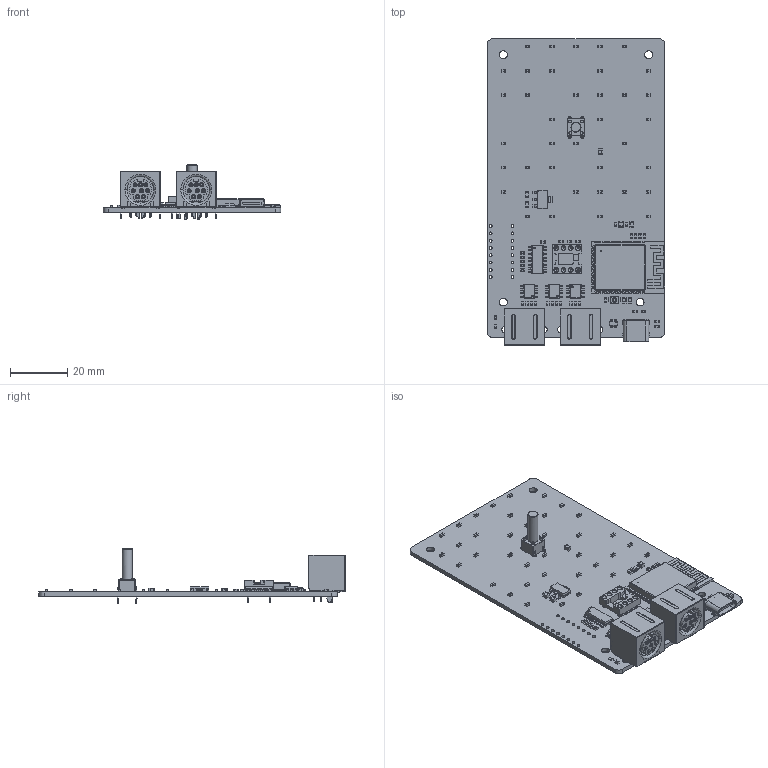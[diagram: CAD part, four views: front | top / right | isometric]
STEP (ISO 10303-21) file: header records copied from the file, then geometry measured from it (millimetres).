
FILE_DESCRIPTION(('KiCad electronic assembly'),'2;1');
FILE_NAME('airwriter-3d.step','2026-10-15T21:17:50',('Pcbnew'),('Kicad') ,'Open CASCADE STEP processor 7.9','KiCad to STEP converter','Unknown' );
FILE_SCHEMA(('AUTOMOTIVE_DESIGN { 1 0 10303 214 1 1 1 1 }'));
Length unit declared in the file: millimetre
Products named in the file (32): airwriter-3d 1; C_0603_1608Metric; R_0603_1608Metric; C_0805_2012Metric; SW_PUSH_6mm_H13mm; SW_PUSH_6mm_h13mm; SOIC-16_3.9x9.9mm_P1.27mm; MiniDIN-8_Kycon_KMDGX-8S-BS_RightAngle; KMDGX-8S-BS_rC3; SOIC-8_3.9x4.9mm_P1.27mm; LED_0603_1608Metric; SOT-223; SW_SPST_B3U-1000P; SOT-353_SC-70-5; USB_C_Receptacle_HRO_TYPE-C-31-M-12; ESP32-S3-WROOM-1; SOT-23-6; DIP-8_W7.62mm_Socket; DIP_8_W762mm_Socket; airwriter_PCB
Assembly tree (106 placements, depth 3):
  airwriter-3d 1
    C_0603_1608Metric  x52
      C_0603_1608Metric
    R_0603_1608Metric  x17
      R_0603_1608Metric
    C_0805_2012Metric  x6
      C_0805_2012Metric
    SW_PUSH_6mm_H13mm
      SW_PUSH_6mm_h13mm
    SOIC-16_3.9x9.9mm_P1.27mm
      SOIC-16_3.9x9.9mm_P1.27mm
    MiniDIN-8_Kycon_KMDGX-8S-BS_RightAngle  x2
      KMDGX-8S-BS_rC3
    SOIC-8_3.9x4.9mm_P1.27mm  x3
      SOIC-8_3.9x4.9mm_P1.27mm
    LED_0603_1608Metric
      LED_0603_1608Metric
    SOT-223
      SOT-223
    SW_SPST_B3U-1000P
      SW_SPST_B3U-1000P
    SOT-353_SC-70-5
      SOT-353_SC-70-5
    USB_C_Receptacle_HRO_TYPE-C-31-M-12
      USB_C_Receptacle_HRO_TYPE-C-31-M-12
    ESP32-S3-WROOM-1
      ESP32-S3-WROOM-1
    SOT-23-6
      SOT-23-6
    DIP-8_W7.62mm_Socket
      DIP_8_W762mm_Socket
    airwriter_PCB
Bounding box: 62 x 107.02 x 19.04 mm (x, y, z)
Volume: 15671.1 mm3; surface area: 21511.8 mm2
Topology: 142 solids, 142 shells, 5519 faces, 14044 edges, 9017 vertices
Faces by surface type: plane 3799, cylinder 1436, bspline 209, cone 56, torus 13, sphere 6
Full cylindrical faces by diameter (mm): 0.3 x12, 0.5 x3, 0.508 x16, 0.65 x2, 0.8 x8, 1 x16, 1.1 x20, 1.524 x8, 1.6 x1, 1.724 x8, 2.3 x6, 2.75 x4
Entity records: 106827 total; most frequent: CARTESIAN_POINT 16292, ORIENTED_EDGE 14707, DIRECTION 13738, EDGE_CURVE 7351, LINE 5870, VECTOR 5870, VERTEX_POINT 4627, AXIS2_PLACEMENT_3D 3934
